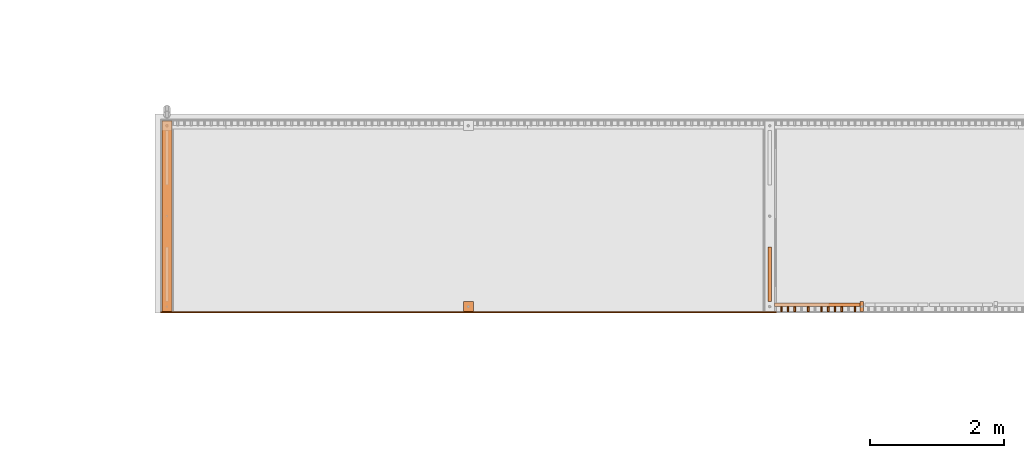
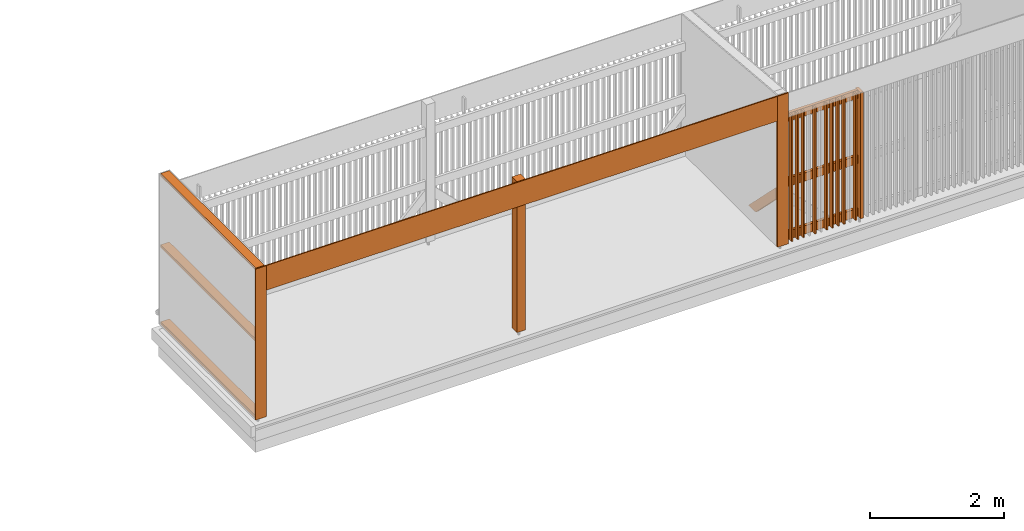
# One storey, part 352 of 418: 21 proxies.
"""IFC2X3 building model written with IfcOpenShell, lengths in millimetres."""

from ifc_helpers import new_model, entity, si_unit, converted_unit, derived_unit, money_unit, direction, frame, frame_2d, origin_with_axes, origin_2d_with_axis, place, context, subcontext, project, spatial, polyline, rectangle, outline, extrude, clip, halfspace, material, type_object, element, save


model = new_model("IFC2X3")

# Units and contexts
model_context = context("Model", 3, precision=0.01, world=origin_with_axes(), true_north=direction((0.0, 1.0)))
body_context = subcontext(model_context, "Body", "Model", "MODEL_VIEW")
ifc_project = project(units=[si_unit("LENGTHUNIT", "METRE", prefix="MILLI"), si_unit("AREAUNIT", "SQUARE_METRE"), si_unit("VOLUMEUNIT", "CUBIC_METRE"), converted_unit("PLANEANGLEUNIT", "DEGREE", entity("IfcPlaneAngleMeasure", 0.0174532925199), si_unit("PLANEANGLEUNIT", "RADIAN"), dimensions=[0, 0, 0, 0, 0, 0, 0]), si_unit("SOLIDANGLEUNIT", "STERADIAN"), money_unit("EUR"), converted_unit("TIMEUNIT", "Year", entity("IfcTimeMeasure", 31556926.0), si_unit("TIMEUNIT", "SECOND"), dimensions=[0, 0, 1, 0, 0, 0, 0]), si_unit("MASSUNIT", "GRAM", prefix="KILO"), si_unit("THERMODYNAMICTEMPERATUREUNIT", "DEGREE_CELSIUS"), si_unit("LUMINOUSINTENSITYUNIT", "LUMEN"), si_unit("ENERGYUNIT", "JOULE", prefix="MEGA"), derived_unit("THERMALCONDUCTANCEUNIT", [(si_unit("POWERUNIT", "WATT"), 1), (si_unit("LENGTHUNIT", "METRE"), -1), (si_unit("THERMODYNAMICTEMPERATUREUNIT", "KELVIN"), -1)]), derived_unit("SPECIFICHEATCAPACITYUNIT", [(si_unit("ENERGYUNIT", "JOULE"), 1), (si_unit("MASSUNIT", "GRAM", prefix="KILO"), -1), (si_unit("THERMODYNAMICTEMPERATUREUNIT", "KELVIN"), -1)]), derived_unit("MASSDENSITYUNIT", [(si_unit("MASSUNIT", "GRAM", prefix="KILO"), 1), (si_unit("VOLUMEUNIT", "CUBIC_METRE"), -1)])], contexts=[model_context])

# Site, building, storey
site_placement = place(None, origin_with_axes())
site = spatial("IfcSite", under=ifc_project, at=site_placement, Name="Paldiski mnt 245/1, Tallinn, Harjumaa", CompositionType="COMPLEX")
building_placement = place(site_placement, origin_with_axes())
building = spatial("IfcBuilding", under=site, at=building_placement, Name="RKAS Hoone üldnimetus (kasutust iseloomustav) -> IFC Project Manager -> SOLIBRI", CompositionType="ELEMENT")
storey_placement = place(building_placement, origin_with_axes())
storey = spatial("IfcBuildingStorey", under=building, at=storey_placement, Name="Esimene korrus", CompositionType="ELEMENT", Elevation=0.0)

# Proxies
ifc_material_1 = material(Name="Voodrilaud UYS 21x120mm")
building_element_proxy_type_1 = type_object("IfcBuildingElementProxyType", Name="Voodrilaud UYS 21x120mm 20", PredefinedType="NOTDEFINED")
for number, where, z_axis, x_axis, name in (
    (1, (-12069.2717928, 11169.7949735, -960.0), (0.0, 0.0, 1.0), (1.0, 0.0, 0.0), "Välissein_1"),
    (2, (-21069.2717928, 11169.7949735, -960.0), (0.0, 0.0, 1.0), (1.0, 0.0, 0.0), "Välissein_1"),
):
    element("IfcBuildingElementProxy", number, at=place(storey_placement, frame(where, z_axis=z_axis, x_axis=x_axis)), inside=storey, type_object=building_element_proxy_type_1, material=ifc_material_1, Name=name, context=body_context, shape_type="SweptSolid", body=[
        extrude(outline(polyline([(0.0, -20.0), (189.999991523, -20.0), (189.999991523, 0.0), (0.0, 0.0), (0.0, -20.0)])), origin_with_axes(), (0.0, 0.0, 1.0), 2752.59465133),
    ])
ifc_material_2 = material(Name="Puit konstruktsioon")
building_element_proxy_type_2 = type_object("IfcBuildingElementProxyType", Name="Puit konstruktsioon 50 x 150", PredefinedType="NOTDEFINED")
proxy_1_placement = place(storey_placement, frame((-10624.2718012, 11269.7949578, 153.066690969), z_axis=(0.0, 0.0, 1.0), x_axis=(0.0, 1.0, 0.0)))
element("IfcBuildingElementProxy", 3, at=proxy_1_placement, inside=storey, type_object=building_element_proxy_type_2, material=ifc_material_2, Name="Puitpruss 50x150mm", context=body_context, shape_type="SweptSolid", body=[
    extrude(rectangle(XDim=150.0, YDim=50.0, at=frame_2d((-75.0, 0.0), x_axis=(1.0, 0.0))), frame((0.0, 0.0, 0.0), z_axis=(0.0, 1.0, 0.0), x_axis=(0.0, 0.0, 1.0)), (0.0, 0.0, 1.0), 1275.0000093),
])
proxy_2_placement = place(storey_placement, frame((-10599.2718012, 11244.7949578, -960.0), z_axis=(0.0, 0.0, 1.0), x_axis=(-1.0, 0.0, 0.0)))
element("IfcBuildingElementProxy", 4, at=proxy_2_placement, inside=storey, type_object=building_element_proxy_type_2, material=ifc_material_2, Name="Puitpruss 50x150 mm", context=body_context, shape_type="SweptSolid", body=[
    extrude(rectangle(XDim=50.0, YDim=150.0, at=origin_2d_with_axis()), origin_with_axes(), (0.0, 0.0, 1.0), 2302.59465133),
])
for number, where, z_axis, x_axis, name in (
    (5, (-10624.2718012, 11269.7949578, 1342.59465133), (0.0, 0.0, 1.0), (0.0, 1.0, 0.0), "Puitpruss 50x150mm"),
    (6, (-10624.2718012, 11269.7949578, -810.0), (0.0, 0.0, 1.0), (0.0, 1.0, 0.0), "Puitpruss 50x150 mm"),
):
    element("IfcBuildingElementProxy", number, at=place(storey_placement, frame(where, z_axis=z_axis, x_axis=x_axis)), inside=storey, type_object=building_element_proxy_type_2, material=ifc_material_2, Name=name, context=body_context, shape_type="SweptSolid", body=[
        extrude(rectangle(XDim=150.0, YDim=50.0, at=frame_2d((-75.0, 0.0), x_axis=(1.0, 0.0))), frame((0.0, 0.0, 0.0), z_axis=(0.0, 1.0, 0.0), x_axis=(0.0, 0.0, 1.0)), (0.0, 0.0, 1.0), 1275.0000093),
    ])
proxy_3_placement = place(storey_placement, frame((-11974.2718528, 12132.8616487, -810.0), z_axis=(0.0, 0.0, 1.0), x_axis=(-1.0, 0.0, 0.0)))
element("IfcBuildingElementProxy", 7, at=proxy_3_placement, inside=storey, type_object=building_element_proxy_type_2, material=ifc_material_2, Name="Puitpruss 150x50 mm", context=body_context, shape_type="Clipping", body=[
    clip(clip(extrude(rectangle(XDim=150.0, YDim=50.0, at=frame_2d((-75.0, 0.0), x_axis=(1.0, 0.0))), frame((0.0, -150.0, -150.0), z_axis=(0.0, 0.707106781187, 0.707106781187), x_axis=(0.0, -0.707106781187, 0.707106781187)), (0.0, 0.0, 1.0), 1574.11401019), halfspace(frame((0.0, 0.0, 0.0), z_axis=(0.0, 0.0, 1.0), x_axis=(0.0, -1.0, 0.0)), True)), halfspace(frame((0.0, 813.066690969, 0.0), z_axis=(0.0, -1.0, 0.0), x_axis=(0.0, 0.0, -1.0)), True)),
])
building_element_proxy_type_3 = type_object("IfcBuildingElementProxyType", Name="Puit konstruktsioon 25 x 75", PredefinedType="NOTDEFINED")
for number, where, z_axis, x_axis, name in (
    (8, (-10699.2717934, 11207.2949578, -960.0), (0.0, 0.0, 1.0), (-1.0, 0.0, 0.0), "Puitlaud 25x75 mm"),
    (9, (-11399.2717934, 11207.2949578, -960.0), (0.0, 0.0, 1.0), (-1.0, 0.0, 0.0), "Puitlaud 25x75 mm"),
    (10, (-10899.2717934, 11207.2949578, -960.0), (0.0, 0.0, 1.0), (-1.0, 0.0, 0.0), "Puitlaud 25x75 mm"),
    (11, (-11099.2717934, 11207.2949578, -960.0), (0.0, 0.0, 1.0), (-1.0, 0.0, 0.0), "Puitlaud 25x75 mm"),
    (12, (-10999.2717934, 11207.2949578, -960.0), (0.0, 0.0, 1.0), (-1.0, 0.0, 0.0), "Puitlaud 25x75 mm"),
    (13, (-11199.2717934, 11207.2949578, -960.0), (0.0, 0.0, 1.0), (-1.0, 0.0, 0.0), "Puitlaud 25x75 mm"),
    (14, (-11699.2717934, 11207.2949578, -960.0), (0.0, 0.0, 1.0), (-1.0, 0.0, 0.0), "Puitlaud 25x75 mm"),
    (15, (-11599.2717934, 11207.2949578, -960.0), (0.0, 0.0, 1.0), (-1.0, 0.0, 0.0), "Puitlaud 25x75 mm"),
    (16, (-11799.2717934, 11207.2949578, -960.0), (0.0, 0.0, 1.0), (-1.0, 0.0, 0.0), "Puitlaud 25x75 mm"),
):
    element("IfcBuildingElementProxy", number, at=place(storey_placement, frame(where, z_axis=z_axis, x_axis=x_axis)), inside=storey, type_object=building_element_proxy_type_3, material=ifc_material_2, Name=name, context=body_context, shape_type="SweptSolid", body=[
        extrude(rectangle(XDim=25.0, YDim=75.0, at=origin_2d_with_axis()), origin_with_axes(), (0.0, 0.0, 1.0), 2302.59465133),
    ])
ifc_material_3 = material(Name="GENERIC - STRUCTURAL")
building_element_proxy_type_4 = type_object("IfcBuildingElementProxyType", Name="GENERIC - STRUCTURAL 150 x 50", PredefinedType="NOTDEFINED")
for number, where, z_axis, x_axis, name in (
    (17, (-20974.2717709, 11170.7949735, 1792.59465133), (0.0, 0.0, 1.0), (1.0, 0.0, 0.0), "Puitpruss 150x50 mm"),
    (18, (-20974.2717709, 11170.7949735, 492.594651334), (0.0, 0.0, 1.0), (1.0, 0.0, 0.0), "Puitpruss 150x50 mm"),
):
    element("IfcBuildingElementProxy", number, at=place(storey_placement, frame(where, z_axis=z_axis, x_axis=x_axis)), inside=storey, type_object=building_element_proxy_type_4, material=ifc_material_3, Name=name, context=body_context, shape_type="SweptSolid", body=[
        extrude(rectangle(XDim=50.0, YDim=150.0, at=frame_2d((-25.0, 0.0), x_axis=(1.0, 0.0))), frame((0.0, 0.0, 0.0), z_axis=(0.0, 1.0, 0.0), x_axis=(0.0, 0.0, 1.0)), (0.0, 0.0, 1.0), 2848.99998425),
    ])
ifc_material_4 = material(Name="Laudis 5072 Honka 45 horisontaalne")
building_element_proxy_type_5 = type_object("IfcBuildingElementProxyType", Name="Laudis 5072 Honka 45 horisontaalne 20", PredefinedType="NOTDEFINED")
proxy_4_placement = place(storey_placement, frame((-20879.2718295, 11169.7949578, 1342.59465133), z_axis=(0.0, 0.0, 1.0), x_axis=(1.0, 0.0, 0.0)))
element("IfcBuildingElementProxy", 19, at=proxy_4_placement, inside=storey, type_object=building_element_proxy_type_5, material=ifc_material_4, Name="Puitlaudis UYS 20x120mm", context=body_context, shape_type="SweptSolid", body=[
    extrude(outline(polyline([(0.0, -20.0), (8810.00005247, -20.0), (8810.00005247, 0.0), (0.0, 0.0), (0.0, -20.0)])), origin_with_axes(), (0.0, 0.0, 1.0), 450.0),
])
building_element_proxy_type_6 = type_object("IfcBuildingElementProxyType", Name="Puit konstruktsioon 150 x 50", PredefinedType="NOTDEFINED")
proxy_5_placement = place(storey_placement, frame((-20974.2718486, 11169.7949735, -910.0), z_axis=(0.0, 0.0, 1.0), x_axis=(1.0, 0.0, 0.0)))
element("IfcBuildingElementProxy", 20, at=proxy_5_placement, inside=storey, type_object=building_element_proxy_type_6, material=ifc_material_2, Name="Puitpruss 150x50 mm", context=body_context, shape_type="SweptSolid", body=[
    extrude(rectangle(XDim=50.0, YDim=150.0, at=frame_2d((-25.0, 0.0), x_axis=(1.0, 0.0))), frame((0.0, 0.0, 0.0), z_axis=(0.0, 1.0, 0.0), x_axis=(0.0, 0.0, 1.0)), (0.0, 0.0, 1.0), 2848.99998425),
])
building_element_proxy_type_7 = type_object("IfcBuildingElementProxyType", Name="Puit konstruktsioon 150 x 150", PredefinedType="NOTDEFINED")
proxy_6_placement = place(storey_placement, frame((-16474.2718012, 11244.7949578, -960.0), z_axis=(0.0, 0.0, 1.0), x_axis=(-1.0, 0.0, 0.0)))
element("IfcBuildingElementProxy", 21, at=proxy_6_placement, inside=storey, type_object=building_element_proxy_type_7, material=ifc_material_2, Name="Puitpruss 150x150 mm", context=body_context, shape_type="SweptSolid", body=[
    extrude(rectangle(XDim=150.0, YDim=150.0, at=origin_2d_with_axis()), origin_with_axes(), (0.0, 0.0, 1.0), 2752.59465133),
])

save(model, "model.ifc")
